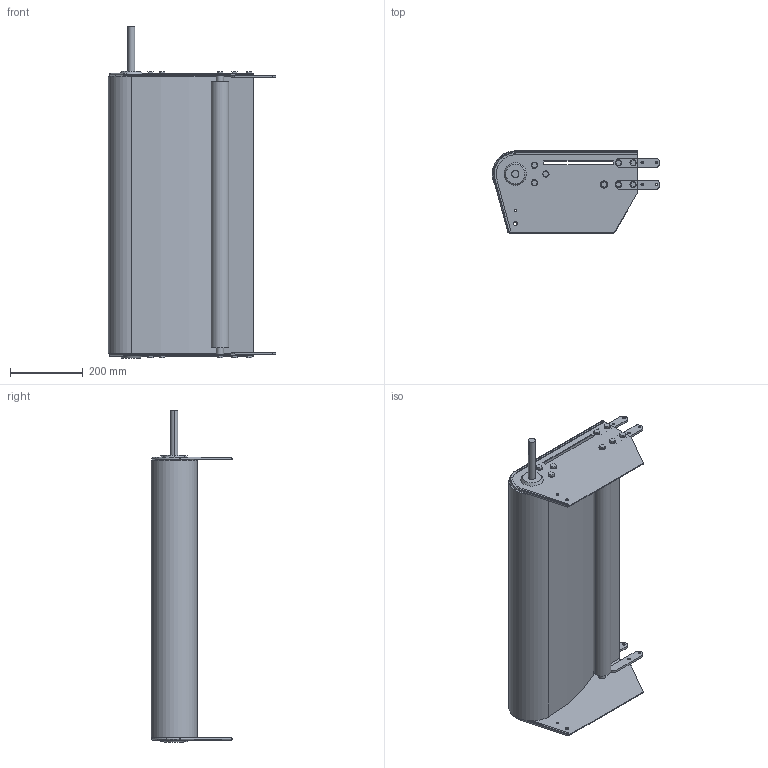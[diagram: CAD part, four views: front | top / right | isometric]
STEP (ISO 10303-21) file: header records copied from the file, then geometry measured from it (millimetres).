
FILE_DESCRIPTION (( 'STEP AP214' ), '1' );
FILE_NAME ('03.102D1L20.770 FS-770-MTS2-100.INOX Directe drive section left.STEP', '2025-02-04T12:36:30', ( '' ), ( '' ), 'SwSTEP 2.0', 'SolidWorks 2024', '' );
FILE_SCHEMA (( 'AUTOMOTIVE_DESIGN' ));
Length unit declared in the file: millimetre
Products named in the file (1): 03.102D1L20.770 FS-770-MTS2-100.INOX Directe drive section left
Bounding box: 461 x 225 x 913 mm (x, y, z)
Volume: 8983133.2 mm3; surface area: 1984856.6 mm2
Topology: 4 solids, 4 shells, 325 faces, 794 edges, 516 vertices
Faces by surface type: plane 223, cylinder 96, cone 4, torus 2
Entity records: 9602 total; most frequent: DIRECTION 1650, CARTESIAN_POINT 1636, ORIENTED_EDGE 1588, EDGE_CURVE 794, LINE 590, VECTOR 590, AXIS2_PLACEMENT_3D 530, VERTEX_POINT 516
